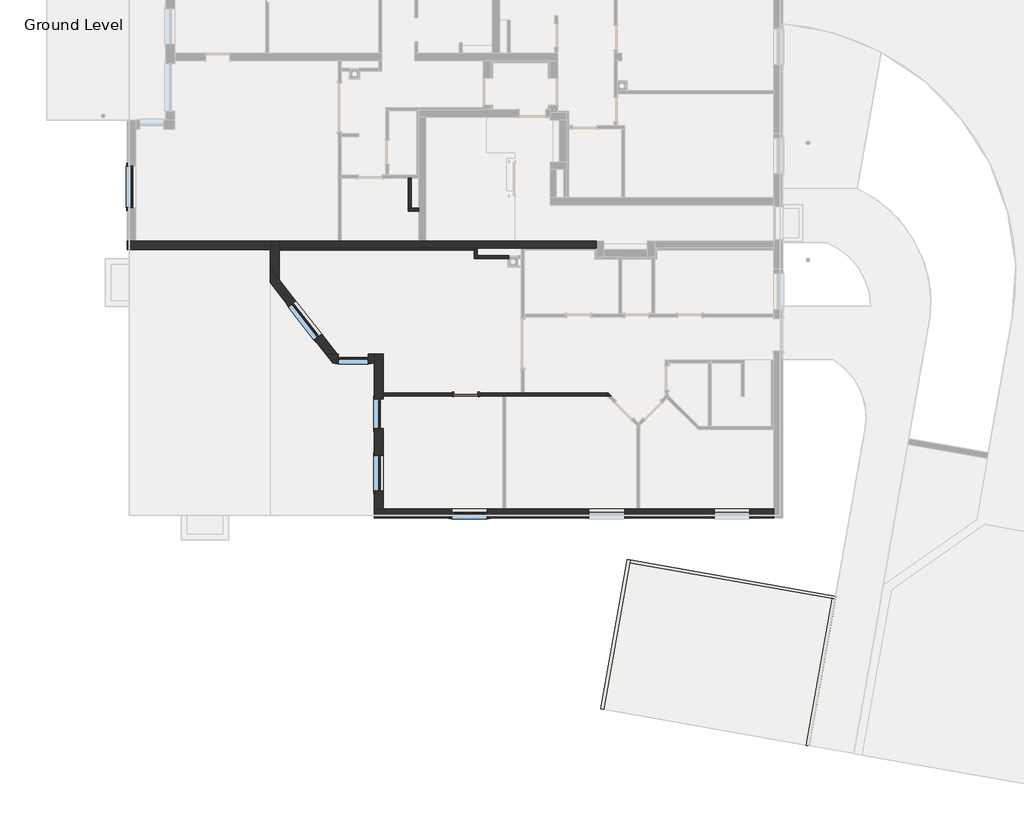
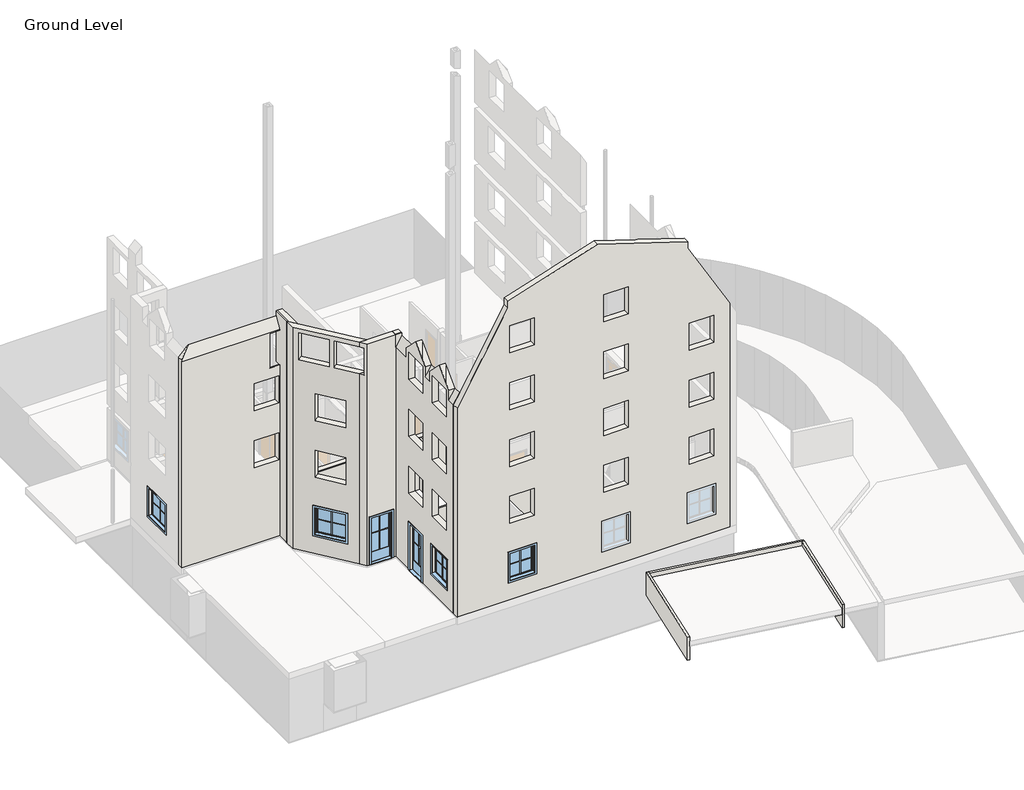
# One storey, part 1 of 6: 16 walls, 6 windows, 1 door.
"""IFC4 building model written with IfcOpenShell, lengths in millimetres."""

from ifc_helpers import new_model, si_unit, frame, origin, origin_with_axes, place, context, project, spatial, polyline, outline, extrude, faceted_brep, transform, mapped, element, save
from components import standard_door_sd_800x2000_80f4ff25, standard_window_with_mullions_d3525f46, standard_window_with_mullions_80486b60, window_2_30278724

model = new_model("IFC4")

# Units and contexts
model_context = context("Model", 3, world=origin())
ifc_project = project(units=[si_unit("LENGTHUNIT", "METRE", prefix="MILLI")], contexts=[model_context])

# Site, building, storey
site = spatial("IfcSite", under=ifc_project)
building = spatial("IfcBuilding", under=site)
storey = spatial("IfcBuildingStorey", under=building, Name="Ground Level", Elevation=0.0)

# Door
placement = place(None, origin())
standard_door_sd_800x2000_shape = standard_door_sd_800x2000_80f4ff25(model_context)
element("IfcDoor", 1, ObjectType="Standard Door : SD 800x2000", at=placement, inside=storey, context=model_context, shape_type="MappedRepresentation", body=[
    mapped(standard_door_sd_800x2000_shape, transform((-1270.9247504, -6982.3709459, 0.0), x_axis=(-1.0, 0.0, 0.0), y_axis=(0.0, -1.0, 0.0), z_axis=(0.0, 0.0, 1.0))),
])

# Walls
element("IfcWall", 2, ObjectType="Exterior - 250+50mm", at=placement, inside=storey, context=model_context, shape_type="Brep", body=[
    faceted_brep([(-4337.1962165, -10832.3709459, 0.0), (-4037.1962165, -10832.3709459, 0.0), (-37.1962165, -10832.3709459, 0.0), (62.8037835, -10832.3709459, 0.0), (4462.8037835, -10832.3709459, 0.0), (4562.8037835, -10832.3709459, 0.0), (9062.8037835, -10832.3709459, 0.0), (9062.8037835, -11132.3709459, 0.0), (-4337.1962165, -11132.3709459, 0.0), (-4337.1962165, -10832.3709459, 10831.9372055), (-4037.1962165, -10832.3709459, 11351.5524478), (-3598.9496412, -10832.3709459, 12110.6177824), (-3398.9496412, -10832.3709459, 12457.027944), (-1841.5846805, -10832.3709459, 15154.4631818), (-1841.5846805, -10832.3709459, 15495.936781), (412.8037835, -10832.3709459, 16228.431996), (512.8037835, -10832.3709459, 16260.9239656), (2571.9978058, -10832.3709459, 16929.9966618), (4612.8037835, -10832.3709459, 16266.8986035), (4712.8037835, -10832.3709459, 16234.4066339), (6985.5802922, -10832.3709459, 15495.936781), (6985.5802922, -10832.3709459, 15160.2921908), (8557.3155772, -10832.3709459, 12437.9668213), (8757.3155772, -10832.3709459, 12091.5566597), (9062.8037835, -10832.3709459, 11562.4355653), (9062.8037835, -10832.3709459, 8850.0), (4412.8037835, -10832.3709459, 8850.0), (4312.8037835, -10832.3709459, 8850.0), (163.5618728, -10832.3709459, 8850.0), (63.5618728, -10832.3709459, 8850.0), (-4037.1962165, -10832.3709459, 8850.0), (-4287.1962165, -10832.3709459, 8850.0), (-4287.1962165, -10832.3709459, 8530.0), (-4037.1962165, -10832.3709459, 8530.0), (1421.3824272, -10832.3709459, 8530.0), (1521.3824272, -10832.3709459, 8530.0), (4703.039213, -10832.3709459, 8530.0), (4803.039213, -10832.3709459, 8530.0), (9062.8037835, -10832.3709459, 8530.0), (9062.8037835, -10832.3709459, 5900.0), (4803.039213, -10832.3709459, 5900.0), (4703.039213, -10832.3709459, 5900.0), (1521.3824272, -10832.3709459, 5900.0), (1421.3824272, -10832.3709459, 5900.0), (-4037.1962165, -10832.3709459, 5900.0), (-4287.1962165, -10832.3709459, 5900.0), (-4287.1962165, -10832.3709459, 5580.0), (-4037.1962165, -10832.3709459, 5580.0), (1421.3824272, -10832.3709459, 5580.0), (1521.3824272, -10832.3709459, 5580.0), (4703.039213, -10832.3709459, 5580.0), (4803.039213, -10832.3709459, 5580.0), (9062.8037835, -10832.3709459, 5580.0), (9062.8037835, -10832.3709459, 2950.0), (4803.039213, -10832.3709459, 2950.0), (4703.039213, -10832.3709459, 2950.0), (1521.3824272, -10832.3709459, 2950.0), (1421.3824272, -10832.3709459, 2950.0), (-4037.1962165, -10832.3709459, 2950.0), (-4287.1962165, -10832.3709459, 2950.0), (-4287.1962165, -10832.3709459, 2630.0), (-4037.1962165, -10832.3709459, 2630.0), (-37.1962165, -10832.3709459, 2630.0), (62.8037835, -10832.3709459, 2630.0), (4462.8037835, -10832.3709459, 2630.0), (4562.8037835, -10832.3709459, 2630.0), (9062.8037835, -10832.3709459, 2630.0), (4053.0392115, -10832.3709459, 12800.0), (4053.0392115, -10832.3709459, 14200.0), (2853.0392115, -10832.3709459, 14200.0), (2853.0392115, -10832.3709459, 12800.0), (-544.1249228, -10832.3709459, 12800.0), (-544.1249228, -10832.3709459, 14200.0), (-1744.1249228, -10832.3709459, 14200.0), (-1744.1249228, -10832.3709459, 12800.0), (8257.145058, -10832.3709459, 9850.0), (8257.145058, -10832.3709459, 11250.0), (7057.145058, -10832.3709459, 11250.0), (7057.145058, -10832.3709459, 9850.0), (4053.0392115, -10832.3709459, 9850.0), (4053.0392115, -10832.3709459, 11250.0), (2853.0392115, -10832.3709459, 11250.0), (2853.0392115, -10832.3709459, 9850.0), (-544.1249228, -10832.3709459, 9850.0), (-544.1249228, -10832.3709459, 11250.0), (-1744.1249228, -10832.3709459, 11250.0), (-1744.1249228, -10832.3709459, 9850.0), (8257.145058, -10832.3709459, 6900.0), (8257.145058, -10832.3709459, 8300.0), (7057.145058, -10832.3709459, 8300.0), (7057.145058, -10832.3709459, 6900.0), (4053.0392115, -10832.3709459, 6900.0), (4053.0392115, -10832.3709459, 8300.0), (2853.0392115, -10832.3709459, 8300.0), (2853.0392115, -10832.3709459, 6900.0), (-544.1249228, -10832.3709459, 6900.0), (-544.1249228, -10832.3709459, 8300.0), (-1744.1249228, -10832.3709459, 8300.0), (-1744.1249228, -10832.3709459, 6900.0), (8257.145058, -10832.3709459, 3950.0), (8257.145058, -10832.3709459, 5350.0), (7057.145058, -10832.3709459, 5350.0), (7057.145058, -10832.3709459, 3950.0), (4053.0392115, -10832.3709459, 3950.0), (4053.0392115, -10832.3709459, 5350.0), (2853.0392115, -10832.3709459, 5350.0), (2853.0392115, -10832.3709459, 3950.0), (-544.1249228, -10832.3709459, 3950.0), (-544.1249228, -10832.3709459, 5350.0), (-1744.1249228, -10832.3709459, 5350.0), (-1744.1249228, -10832.3709459, 3950.0), (8257.145058, -10832.3709459, 1000.0), (8257.145058, -10832.3709459, 2400.0), (7057.145058, -10832.3709459, 2400.0), (7057.145058, -10832.3709459, 1000.0), (4053.0392115, -10832.3709459, 1000.0), (4053.0392115, -10832.3709459, 2400.0), (2853.0392115, -10832.3709459, 2400.0), (2853.0392115, -10832.3709459, 1000.0), (-544.1249228, -10832.3709459, 1000.0), (-544.1249228, -10832.3709459, 2400.0), (-1744.1249228, -10832.3709459, 2400.0), (-1744.1249228, -10832.3709459, 1000.0), (9062.8037835, -11132.3709459, 11562.4355653), (6985.5802922, -11132.3709459, 15160.2921908), (6985.5802922, -11132.3709459, 15495.936781), (2571.9978058, -11132.3709459, 16929.9966618), (-1841.5846805, -11132.3709459, 15495.936781), (-1841.5846805, -11132.3709459, 15154.4631818), (-4337.1962165, -11132.3709459, 10831.9372055), (4053.0392115, -11132.3709459, 14200.0), (4053.0392115, -11132.3709459, 12800.0), (2853.0392115, -11132.3709459, 12800.0), (2853.0392115, -11132.3709459, 14200.0), (-544.1249228, -11132.3709459, 14200.0), (-544.1249228, -11132.3709459, 12800.0), (-1744.1249228, -11132.3709459, 12800.0), (-1744.1249228, -11132.3709459, 14200.0), (8257.145058, -11132.3709459, 11250.0), (8257.145058, -11132.3709459, 9850.0), (7057.145058, -11132.3709459, 9850.0), (7057.145058, -11132.3709459, 11250.0), (4053.0392115, -11132.3709459, 11250.0), (4053.0392115, -11132.3709459, 9850.0), (2853.0392115, -11132.3709459, 9850.0), (2853.0392115, -11132.3709459, 11250.0), (-544.1249228, -11132.3709459, 11250.0), (-544.1249228, -11132.3709459, 9850.0), (-1744.1249228, -11132.3709459, 9850.0), (-1744.1249228, -11132.3709459, 11250.0), (8257.145058, -11132.3709459, 8300.0), (8257.145058, -11132.3709459, 6900.0), (7057.145058, -11132.3709459, 6900.0), (7057.145058, -11132.3709459, 8300.0), (4053.0392115, -11132.3709459, 8300.0), (4053.0392115, -11132.3709459, 6900.0), (2853.0392115, -11132.3709459, 6900.0), (2853.0392115, -11132.3709459, 8300.0), (-544.1249228, -11132.3709459, 8300.0), (-544.1249228, -11132.3709459, 6900.0), (-1744.1249228, -11132.3709459, 6900.0), (-1744.1249228, -11132.3709459, 8300.0), (8257.145058, -11132.3709459, 5350.0), (8257.145058, -11132.3709459, 3950.0), (7057.145058, -11132.3709459, 3950.0), (7057.145058, -11132.3709459, 5350.0), (4053.0392115, -11132.3709459, 5350.0), (4053.0392115, -11132.3709459, 3950.0), (2853.0392115, -11132.3709459, 3950.0), (2853.0392115, -11132.3709459, 5350.0), (-544.1249228, -11132.3709459, 5350.0), (-544.1249228, -11132.3709459, 3950.0), (-1744.1249228, -11132.3709459, 3950.0), (-1744.1249228, -11132.3709459, 5350.0), (8257.145058, -11132.3709459, 2400.0), (8257.145058, -11132.3709459, 1000.0), (7057.145058, -11132.3709459, 1000.0), (7057.145058, -11132.3709459, 2400.0), (4053.0392115, -11132.3709459, 2400.0), (4053.0392115, -11132.3709459, 1000.0), (2853.0392115, -11132.3709459, 1000.0), (2853.0392115, -11132.3709459, 2400.0), (-544.1249228, -11132.3709459, 2400.0), (-544.1249228, -11132.3709459, 1000.0), (-1744.1249228, -11132.3709459, 1000.0), (-1744.1249228, -11132.3709459, 2400.0), (9062.8037835, -11082.3709459, 2630.0), (9062.8037835, -11082.3709459, 2950.0), (9062.8037835, -11082.3709459, 5580.0), (9062.8037835, -11082.3709459, 5900.0), (9062.8037835, -11082.3709459, 8530.0), (9062.8037835, -11082.3709459, 8850.0), (-4287.1962165, -11082.3709459, 2630.0), (-4287.1962165, -11082.3709459, 2950.0), (-4287.1962165, -11082.3709459, 5580.0), (-4287.1962165, -11082.3709459, 5900.0), (-4287.1962165, -11082.3709459, 8530.0), (-4287.1962165, -11082.3709459, 8850.0)], [[[0, 1, 2, 3, 4, 5, 6, 7, 8]], [[6, 5, 4, 3, 2, 1, 0, 9, 10, 11, 12, 13, 14, 15, 16, 17, 18, 19, 20, 21, 22, 23, 24, 25, 26, 27, 28, 29, 30, 31, 32, 33, 34, 35, 36, 37, 38, 39, 40, 41, 42, 43, 44, 45, 46, 47, 48, 49, 50, 51, 52, 53, 54, 55, 56, 57, 58, 59, 60, 61, 62, 63, 64, 65, 66], [67, 68, 69, 70], [71, 72, 73, 74], [75, 76, 77, 78], [79, 80, 81, 82], [83, 84, 85, 86], [87, 88, 89, 90], [91, 92, 93, 94], [95, 96, 97, 98], [99, 100, 101, 102], [103, 104, 105, 106], [107, 108, 109, 110], [111, 112, 113, 114], [115, 116, 117, 118], [119, 120, 121, 122]], [[8, 7, 123, 124, 125, 126, 127, 128, 129], [130, 131, 132, 133], [134, 135, 136, 137], [138, 139, 140, 141], [142, 143, 144, 145], [146, 147, 148, 149], [150, 151, 152, 153], [154, 155, 156, 157], [158, 159, 160, 161], [162, 163, 164, 165], [166, 167, 168, 169], [170, 171, 172, 173], [174, 175, 176, 177], [178, 179, 180, 181], [182, 183, 184, 185]], [[123, 7, 6, 66, 186, 187, 53, 52, 188, 189, 39, 38, 190, 191, 25, 24]], [[9, 0, 8, 129]], [[128, 127, 14, 13]], [[21, 20, 125, 124]], [[13, 12, 11, 10, 9, 129, 128]], [[24, 23, 22, 21, 124, 123]], [[125, 20, 19, 18, 17, 126]], [[14, 127, 126, 17, 16, 15]], [[68, 67, 131, 130]], [[69, 68, 130, 133]], [[70, 69, 133, 132]], [[67, 70, 132, 131]], [[72, 71, 135, 134]], [[73, 72, 134, 137]], [[74, 73, 137, 136]], [[71, 74, 136, 135]], [[76, 75, 139, 138]], [[77, 76, 138, 141]], [[78, 77, 141, 140]], [[75, 78, 140, 139]], [[80, 79, 143, 142]], [[81, 80, 142, 145]], [[82, 81, 145, 144]], [[79, 82, 144, 143]], [[84, 83, 147, 146]], [[85, 84, 146, 149]], [[86, 85, 149, 148]], [[83, 86, 148, 147]], [[88, 87, 151, 150]], [[89, 88, 150, 153]], [[90, 89, 153, 152]], [[87, 90, 152, 151]], [[92, 91, 155, 154]], [[93, 92, 154, 157]], [[94, 93, 157, 156]], [[91, 94, 156, 155]], [[96, 95, 159, 158]], [[97, 96, 158, 161]], [[98, 97, 161, 160]], [[95, 98, 160, 159]], [[100, 99, 163, 162]], [[101, 100, 162, 165]], [[102, 101, 165, 164]], [[99, 102, 164, 163]], [[104, 103, 167, 166]], [[105, 104, 166, 169]], [[106, 105, 169, 168]], [[103, 106, 168, 167]], [[108, 107, 171, 170]], [[109, 108, 170, 173]], [[110, 109, 173, 172]], [[107, 110, 172, 171]], [[112, 111, 175, 174]], [[113, 112, 174, 177]], [[114, 113, 177, 176]], [[111, 114, 176, 175]], [[116, 115, 179, 178]], [[117, 116, 178, 181]], [[118, 117, 181, 180]], [[115, 118, 180, 179]], [[120, 119, 183, 182]], [[121, 120, 182, 185]], [[122, 121, 185, 184]], [[119, 122, 184, 183]], [[60, 192, 186, 66, 65, 64, 63, 62, 61]], [[187, 193, 59, 58, 57, 56, 55, 54, 53]], [[192, 193, 187, 186]], [[193, 192, 60, 59]], [[46, 194, 188, 52, 51, 50, 49, 48, 47]], [[189, 195, 45, 44, 43, 42, 41, 40, 39]], [[194, 195, 189, 188]], [[195, 194, 46, 45]], [[32, 196, 190, 38, 37, 36, 35, 34, 33]], [[191, 197, 31, 30, 29, 28, 27, 26, 25]], [[196, 197, 191, 190]], [[197, 196, 32, 31]]]),
])
element("IfcWall", 3, ObjectType="Exterior - 250+50mm", at=placement, inside=storey, context=model_context, shape_type="Brep", body=[
    faceted_brep([(-4037.1962165, -10832.3709459, 0.0), (-4337.1962165, -10832.3709459, 0.0), (-4337.1962165, -8132.3709422, 0.0), (-4037.1962165, -8132.3709422, 0.0), (-4337.1962165, -5632.3709459, 0.0), (-4037.1962165, -5632.3709459, 0.0), (-4037.1962165, -6932.3709459, 0.0), (-4037.1962165, -7032.3709459, 0.0), (-4037.1962165, -7132.3709422, 0.0), (-4337.1962165, -7132.3709422, 0.0), (-4337.1962165, -5932.3709459, 0.0), (-4037.1962165, -5932.3709459, 11480.0), (-4037.1962165, -5932.3709459, 11351.5524478), (-4037.1962165, -6832.3709452, 11351.5524478), (-4037.1962165, -6833.9233929, 11351.5524478), (-4037.1962165, -7553.9233929, 12071.5524478), (-4037.1962165, -7632.3709452, 12150.0), (-4037.1962165, -7710.8184974, 12071.5524478), (-4037.1962165, -8430.8184974, 11351.5524478), (-4037.1962165, -8432.3709452, 11351.5524478), (-4037.1962165, -8832.3709452, 11351.5524478), (-4037.1962165, -8833.9233929, 11351.5524478), (-4037.1962165, -9553.9233929, 12071.5524478), (-4037.1962165, -9632.3709452, 12150.0), (-4037.1962165, -9710.8184974, 12071.5524478), (-4037.1962165, -10430.8184974, 11351.5524478), (-4037.1962165, -10432.3709452, 11351.5524478), (-4037.1962165, -10832.3709459, 11351.5524478), (-4037.1962165, -10832.3709459, 8850.0), (-4037.1962165, -6782.3709459, 8850.0), (-4037.1962165, -6682.3709459, 8850.0), (-4037.1962165, -5632.3709459, 8850.0), (-4037.1962165, -5632.3709459, 11480.0), (-4037.1962165, -5882.3709459, 11480.0), (-4037.1962165, -8232.3709452, 9850.0), (-4037.1962165, -8232.3709452, 11250.0), (-4037.1962165, -7032.3709452, 11250.0), (-4037.1962165, -7032.3709452, 9850.0), (-4037.1962165, -10232.3709452, 9850.0), (-4037.1962165, -10232.3709452, 11250.0), (-4037.1962165, -9032.3709452, 11250.0), (-4037.1962165, -9032.3709452, 9850.0), (-4037.1962165, -7132.3709422, 2400.0), (-4037.1962165, -5632.3709459, 2630.0), (-4037.1962165, -6932.3709459, 2630.0), (-4037.1962165, -7032.3709459, 2630.0), (-4037.1962165, -10832.3709459, 2630.0), (-4037.1962165, -8132.3709422, 2400.0), (-4037.1962165, -10232.3709452, 1000.0), (-4037.1962165, -10232.3709452, 2400.0), (-4037.1962165, -9032.3709452, 2400.0), (-4037.1962165, -9032.3709452, 1000.0), (-4037.1962165, -10832.3709459, 2950.0), (-4037.1962165, -5732.3709459, 2950.0), (-4037.1962165, -5632.3709459, 2950.0), (-4037.1962165, -5632.3709459, 5580.0), (-4037.1962165, -5732.3709459, 5580.0), (-4037.1962165, -10832.3709459, 5580.0), (-4037.1962165, -8232.3709452, 3950.0), (-4037.1962165, -8232.3709452, 5350.0), (-4037.1962165, -7032.3709452, 5350.0), (-4037.1962165, -7032.3709452, 3950.0), (-4037.1962165, -10232.3709452, 3950.0), (-4037.1962165, -10232.3709452, 5350.0), (-4037.1962165, -9032.3709452, 5350.0), (-4037.1962165, -9032.3709452, 3950.0), (-4037.1962165, -10832.3709459, 5900.0), (-4037.1962165, -5732.3709459, 5900.0), (-4037.1962165, -5632.3709459, 5900.0), (-4037.1962165, -5632.3709459, 8530.0), (-4037.1962165, -5732.3709459, 8530.0), (-4037.1962165, -10832.3709459, 8530.0), (-4037.1962165, -8232.3709452, 6900.0), (-4037.1962165, -8232.3709452, 8300.0), (-4037.1962165, -7032.3709452, 8300.0), (-4037.1962165, -7032.3709452, 6900.0), (-4037.1962165, -10232.3709452, 6900.0), (-4037.1962165, -10232.3709452, 8300.0), (-4037.1962165, -9032.3709452, 8300.0), (-4037.1962165, -9032.3709452, 6900.0), (-4337.1962165, -10832.3709459, 10831.9372055), (-4337.1962165, -10432.3709452, 10831.9372055), (-4337.1962165, -10432.3709452, 11350.0), (-4337.1962165, -10230.4337397, 11551.9372055), (-4337.1962165, -9632.3709452, 12150.0), (-4337.1962165, -9034.3081507, 11551.9372055), (-4337.1962165, -8832.3709452, 11350.0), (-4337.1962165, -8832.3709452, 10831.9372055), (-4337.1962165, -8432.3709452, 10831.9372055), (-4337.1962165, -8432.3709452, 11350.0), (-4337.1962165, -8230.4337397, 11551.9372055), (-4337.1962165, -7632.3709452, 12150.0), (-4337.1962165, -7034.3081507, 11551.9372055), (-4337.1962165, -6832.3709452, 11350.0), (-4337.1962165, -6832.3709452, 10831.9372055), (-4337.1962165, -5932.3709459, 10831.9372055), (-4337.1962165, -5932.3709459, 11480.0), (-4337.1962165, -5882.3709459, 11480.0), (-4337.1962165, -5632.3709459, 11480.0), (-4337.1962165, -5632.3709459, 8850.0), (-4337.1962165, -5882.3709459, 8850.0), (-4337.1962165, -5882.3709459, 8530.0), (-4337.1962165, -5632.3709459, 8530.0), (-4337.1962165, -5632.3709459, 5900.0), (-4337.1962165, -5882.3709459, 5900.0), (-4337.1962165, -5882.3709459, 5580.0), (-4337.1962165, -5632.3709459, 5580.0), (-4337.1962165, -5632.3709459, 2950.0), (-4337.1962165, -5882.3709459, 2950.0), (-4337.1962165, -5882.3709459, 2630.0), (-4337.1962165, -5632.3709459, 2630.0), (-4337.1962165, -7132.3709422, 2400.0), (-4337.1962165, -8132.3709422, 2400.0), (-4337.1962165, -8232.3709452, 11250.0), (-4337.1962165, -8232.3709452, 9850.0), (-4337.1962165, -7032.3709452, 9850.0), (-4337.1962165, -7032.3709452, 11250.0), (-4337.1962165, -10232.3709452, 11250.0), (-4337.1962165, -10232.3709452, 9850.0), (-4337.1962165, -9032.3709452, 9850.0), (-4337.1962165, -9032.3709452, 11250.0), (-4337.1962165, -8232.3709452, 8300.0), (-4337.1962165, -8232.3709452, 6900.0), (-4337.1962165, -7032.3709452, 6900.0), (-4337.1962165, -7032.3709452, 8300.0), (-4337.1962165, -10232.3709452, 8300.0), (-4337.1962165, -10232.3709452, 6900.0), (-4337.1962165, -9032.3709452, 6900.0), (-4337.1962165, -9032.3709452, 8300.0), (-4337.1962165, -8232.3709452, 5350.0), (-4337.1962165, -8232.3709452, 3950.0), (-4337.1962165, -7032.3709452, 3950.0), (-4337.1962165, -7032.3709452, 5350.0), (-4337.1962165, -10232.3709452, 5350.0), (-4337.1962165, -10232.3709452, 3950.0), (-4337.1962165, -9032.3709452, 3950.0), (-4337.1962165, -9032.3709452, 5350.0), (-4337.1962165, -10232.3709452, 2400.0), (-4337.1962165, -10232.3709452, 1000.0), (-4337.1962165, -9032.3709452, 1000.0), (-4337.1962165, -9032.3709452, 2400.0), (-4287.1962165, -10832.3709459, 2630.0), (-4287.1962165, -10832.3709459, 2950.0), (-4287.1962165, -10832.3709459, 5580.0), (-4287.1962165, -10832.3709459, 5900.0), (-4287.1962165, -10832.3709459, 8530.0), (-4287.1962165, -10832.3709459, 8850.0), (-4038.0925227, -10432.3709452, 11350.0), (-4038.0925227, -8832.3709452, 11350.0), (-4038.0925227, -8432.3709452, 11350.0), (-4038.0925227, -6832.3709452, 11350.0), (-4287.1962165, -5882.3709459, 2630.0), (-4287.1962165, -5882.3709459, 2950.0), (-4287.1962165, -5882.3709459, 5580.0), (-4287.1962165, -5882.3709459, 5900.0), (-4287.1962165, -5882.3709459, 8530.0), (-4287.1962165, -5882.3709459, 8850.0)], [[[0, 1, 2, 3]], [[4, 5, 6, 7, 8, 9, 10]], [[11, 12, 13, 14, 15, 16, 17, 18, 19, 20, 21, 22, 23, 24, 25, 26, 27, 28, 29, 30, 31, 32, 33], [34, 35, 36, 37], [38, 39, 40, 41]], [[42, 8, 7, 6, 5, 43, 44, 45, 46, 0, 3, 47], [48, 49, 50, 51]], [[52, 53, 54, 55, 56, 57], [58, 59, 60, 61], [62, 63, 64, 65]], [[66, 67, 68, 69, 70, 71], [72, 73, 74, 75], [76, 77, 78, 79]], [[1, 80, 81, 82, 83, 84, 85, 86, 87, 88, 89, 90, 91, 92, 93, 94, 95, 96, 97, 98, 99, 100, 101, 102, 103, 104, 105, 106, 107, 108, 109, 110, 4, 10, 9, 111, 112, 2], [113, 114, 115, 116], [117, 118, 119, 120], [121, 122, 123, 124], [125, 126, 127, 128], [129, 130, 131, 132], [133, 134, 135, 136], [137, 138, 139, 140]], [[27, 80, 1, 0, 46, 141, 142, 52, 57, 143, 144, 66, 71, 145, 146, 28]], [[5, 4, 110, 43]], [[98, 32, 31, 99]], [[54, 107, 106, 55]], [[68, 103, 102, 69]], [[12, 11, 96, 95]], [[82, 81, 147]], [[87, 86, 148]], [[89, 88, 149]], [[94, 93, 150]], [[96, 11, 33, 97]], [[13, 12, 95, 94, 150, 14]], [[86, 85, 22, 21, 148]], [[83, 82, 147, 25, 24]], [[93, 92, 15, 14, 150]], [[90, 89, 149, 18, 17]], [[88, 87, 148, 21, 20, 19, 18, 149]], [[80, 27, 26, 25, 147, 81]], [[17, 16, 91, 90]], [[16, 15, 92, 91]], [[24, 23, 84, 83]], [[23, 22, 85, 84]], [[33, 32, 98, 97]], [[111, 9, 8, 42]], [[112, 111, 42, 47]], [[2, 112, 47, 3]], [[35, 34, 114, 113]], [[36, 35, 113, 116]], [[37, 36, 116, 115]], [[34, 37, 115, 114]], [[39, 38, 118, 117]], [[40, 39, 117, 120]], [[41, 40, 120, 119]], [[38, 41, 119, 118]], [[73, 72, 122, 121]], [[74, 73, 121, 124]], [[75, 74, 124, 123]], [[72, 75, 123, 122]], [[77, 76, 126, 125]], [[78, 77, 125, 128]], [[79, 78, 128, 127]], [[76, 79, 127, 126]], [[59, 58, 130, 129]], [[60, 59, 129, 132]], [[61, 60, 132, 131]], [[58, 61, 131, 130]], [[63, 62, 134, 133]], [[64, 63, 133, 136]], [[65, 64, 136, 135]], [[62, 65, 135, 134]], [[49, 48, 138, 137]], [[50, 49, 137, 140]], [[51, 50, 140, 139]], [[48, 51, 139, 138]], [[109, 151, 141, 46, 45, 44, 43, 110]], [[142, 152, 108, 107, 54, 53, 52]], [[151, 152, 142, 141]], [[152, 151, 109, 108]], [[105, 153, 143, 57, 56, 55, 106]], [[144, 154, 104, 103, 68, 67, 66]], [[153, 154, 144, 143]], [[154, 153, 105, 104]], [[101, 155, 145, 71, 70, 69, 102]], [[146, 156, 100, 99, 31, 30, 29, 28]], [[155, 156, 146, 145]], [[156, 155, 101, 100]]]),
])
element("IfcWall", 4, ObjectType="Exterior - 250+50mm", at=placement, inside=storey, context=model_context, shape_type="Brep", body=[
    faceted_brep([(-4337.1962165, -5632.3709459, 0.0), (-4337.1962165, -5932.3709459, 0.0), (-4550.4710748, -5932.3709459, 0.0), (-4550.4710748, -5632.3709459, 0.0), (-5737.1962165, -5932.3709459, 0.0), (-5970.5295499, -5632.3709459, 0.0), (-5590.4710748, -5632.3709459, 0.0), (-5550.4710748, -5632.3709459, 0.0), (-5550.4710748, -5932.3709459, 0.0), (-4337.1962165, -5632.3709459, 11480.0), (-5590.4710748, -5632.3709459, 11480.0), (-5970.5295499, -5632.3709459, 11480.0), (-5737.1962165, -5932.3709459, 11480.0), (-4337.1962165, -5932.3709459, 11480.0), (-4337.1962165, -5632.3709459, 8850.0), (-5907.1864707, -5632.3709459, 8850.0), (-5907.1864707, -5632.3709459, 8530.0), (-4337.1962165, -5632.3709459, 8530.0), (-4337.1962165, -5632.3709459, 5900.0), (-5907.1864707, -5632.3709459, 5900.0), (-5907.1864707, -5632.3709459, 5580.0), (-4337.1962165, -5632.3709459, 5580.0), (-4337.1962165, -5632.3709459, 2950.0), (-5907.1864707, -5632.3709459, 2950.0), (-5907.1864707, -5632.3709459, 2630.0), (-4337.1962165, -5632.3709459, 2630.0), (-4550.4710748, -5632.3709459, 2400.0), (-5550.4710748, -5632.3709459, 2400.0), (-5970.5295499, -5632.3709459, 9850.0), (-5590.4710748, -5632.3709459, 9850.0), (-5590.4710748, -5632.3709459, 11250.0), (-5970.5295499, -5632.3709459, 11250.0), (-5550.4710748, -5932.3709459, 2400.0), (-4550.4710748, -5932.3709459, 2400.0), (-4337.1962165, -5932.3709459, 10831.9372055), (-4337.1962165, -5882.3709459, 2630.0), (-4337.1962165, -5882.3709459, 2950.0), (-4337.1962165, -5882.3709459, 5580.0), (-4337.1962165, -5882.3709459, 5900.0), (-4337.1962165, -5882.3709459, 8530.0), (-4337.1962165, -5882.3709459, 8850.0), (-5827.27674, -5816.55313, 11250.0), (-5827.27674, -5816.55313, 9850.0), (-5712.7420262, -5882.3709459, 2630.0), (-5712.7420262, -5882.3709459, 2950.0), (-5712.7420262, -5882.3709459, 5580.0), (-5712.7420262, -5882.3709459, 5900.0), (-5712.7420262, -5882.3709459, 8530.0), (-5712.7420262, -5882.3709459, 8850.0)], [[[0, 1, 2, 3]], [[4, 5, 6, 7, 8]], [[9, 10, 11, 12, 13]], [[11, 10, 9, 14, 15, 16, 17, 18, 19, 20, 21, 22, 23, 24, 25, 0, 3, 26, 27, 7, 6, 5, 28, 29, 30, 31]], [[13, 12, 4, 8, 32, 33, 2, 1, 34]], [[9, 13, 34, 1, 0, 25, 35, 36, 22, 21, 37, 38, 18, 17, 39, 40, 14]], [[5, 4, 12, 11, 31, 41, 42, 28]], [[32, 8, 7, 27]], [[33, 32, 27, 26]], [[2, 33, 26, 3]], [[29, 42, 41, 30]], [[30, 41, 31]], [[42, 29, 28]], [[24, 43, 35, 25]], [[36, 44, 23, 22]], [[43, 44, 36, 35]], [[44, 43, 24, 23]], [[20, 45, 37, 21]], [[38, 46, 19, 18]], [[45, 46, 38, 37]], [[46, 45, 20, 19]], [[16, 47, 39, 17]], [[40, 48, 15, 14]], [[47, 48, 40, 39]], [[48, 47, 16, 15]]]),
])
element("IfcWall", 5, ObjectType="Exterior - 250+50mm", at=placement, inside=storey, context=model_context, shape_type="Brep", body=[
    faceted_brep([(-7837.1962165, -2743.7243352, 0.0), (-7537.1962165, -3129.4386209, 0.0), (-5590.4710748, -5632.3709459, 0.0), (-5970.5295499, -5632.3709459, 0.0), (-7837.1962165, -3232.3709459, 0.0), (-5590.4710748, -5632.3709459, 11480.0), (-7537.1962165, -3129.4386209, 11480.0), (-7837.1962165, -2743.7243352, 11480.0), (-7837.1962165, -3232.3709459, 11480.0), (-5970.5295499, -5632.3709459, 11480.0), (-5590.4710748, -5632.3709459, 11250.0), (-6449.9879338, -4527.2778416, 11250.0), (-6449.9879338, -4527.2778416, 9850.0), (-5590.4710748, -5632.3709459, 9850.0), (-5590.4710748, -5632.3709459, 8850.0), (-7537.1962165, -3129.4386209, 8850.0), (-7787.1962165, -2808.0100494, 8850.0), (-7787.1962165, -2808.0100494, 8530.0), (-7537.1962165, -3129.4386209, 8530.0), (-5590.4710748, -5632.3709459, 8530.0), (-5590.4710748, -5632.3709459, 5900.0), (-7537.1962165, -3129.4386209, 5900.0), (-7787.1962165, -2808.0100494, 5900.0), (-7787.1962165, -2808.0100494, 5580.0), (-7537.1962165, -3129.4386209, 5580.0), (-5590.4710748, -5632.3709459, 5580.0), (-5590.4710748, -5632.3709459, 2950.0), (-7537.1962165, -3129.4386209, 2950.0), (-7787.1962165, -2808.0100494, 2950.0), (-7787.1962165, -2808.0100494, 2630.0), (-7537.1962165, -3129.4386209, 2630.0), (-5590.4710748, -5632.3709459, 2630.0), (-6576.7507807, -4364.2970383, 9850.0), (-6576.7507807, -4364.2970383, 11250.0), (-7436.2676396, -3259.203934, 11250.0), (-7436.2676396, -3259.203934, 9850.0), (-6111.3619969, -4962.6540461, 6900.0), (-6111.3619969, -4962.6540461, 8300.0), (-6970.8788558, -3857.5609418, 8300.0), (-6970.8788558, -3857.5609418, 6900.0), (-6111.3619969, -4962.6540461, 3950.0), (-6111.3619969, -4962.6540461, 5350.0), (-6970.8788558, -3857.5609418, 5350.0), (-6970.8788558, -3857.5609418, 3950.0), (-6111.3619969, -4962.6540461, 1000.0), (-6111.3619969, -4962.6540461, 2400.0), (-6970.8788558, -3857.5609418, 2400.0), (-6970.8788558, -3857.5609418, 1000.0), (-5970.5295499, -5632.3709459, 9850.0), (-6686.793599, -4711.4600256, 9850.0), (-6686.793599, -4711.4600256, 11250.0), (-5970.5295499, -5632.3709459, 11250.0), (-6813.5564459, -4548.4792224, 11250.0), (-6813.5564459, -4548.4792224, 9850.0), (-7673.0733049, -3443.3861181, 9850.0), (-7673.0733049, -3443.3861181, 11250.0), (-6348.1676621, -5146.8362301, 8300.0), (-6348.1676621, -5146.8362301, 6900.0), (-7207.6845211, -4041.7431258, 6900.0), (-7207.6845211, -4041.7431258, 8300.0), (-6348.1676621, -5146.8362301, 5350.0), (-6348.1676621, -5146.8362301, 3950.0), (-7207.6845211, -4041.7431258, 3950.0), (-7207.6845211, -4041.7431258, 5350.0), (-6348.1676621, -5146.8362301, 2400.0), (-6348.1676621, -5146.8362301, 1000.0), (-7207.6845211, -4041.7431258, 1000.0), (-7207.6845211, -4041.7431258, 2400.0), (-5907.1864707, -5632.3709459, 2630.0), (-5907.1864707, -5632.3709459, 2950.0), (-5907.1864707, -5632.3709459, 5580.0), (-5907.1864707, -5632.3709459, 5900.0), (-5907.1864707, -5632.3709459, 8530.0), (-5907.1864707, -5632.3709459, 8850.0), (-7787.1962165, -3215.2155584, 2630.0), (-7787.1962165, -3215.2155584, 2950.0), (-7787.1962165, -3215.2155584, 5580.0), (-7787.1962165, -3215.2155584, 5900.0), (-7787.1962165, -3215.2155584, 8530.0), (-7787.1962165, -3215.2155584, 8850.0)], [[[0, 1, 2, 3, 4]], [[5, 6, 7, 8, 9]], [[2, 1, 0, 7, 6, 5, 10, 11, 12, 13, 14, 15, 16, 17, 18, 19, 20, 21, 22, 23, 24, 25, 26, 27, 28, 29, 30, 31], [32, 33, 34, 35], [36, 37, 38, 39], [40, 41, 42, 43], [44, 45, 46, 47]], [[4, 3, 48, 49, 50, 51, 9, 8], [52, 53, 54, 55], [56, 57, 58, 59], [60, 61, 62, 63], [64, 65, 66, 67]], [[7, 0, 4, 8]], [[5, 9, 51, 10]], [[3, 2, 31, 68, 69, 26, 25, 70, 71, 20, 19, 72, 73, 14, 13, 48]], [[50, 11, 10, 51]], [[11, 50, 49, 12]], [[12, 49, 48, 13]], [[33, 32, 53, 52]], [[34, 33, 52, 55]], [[35, 34, 55, 54]], [[32, 35, 54, 53]], [[37, 36, 57, 56]], [[38, 37, 56, 59]], [[39, 38, 59, 58]], [[36, 39, 58, 57]], [[41, 40, 61, 60]], [[42, 41, 60, 63]], [[43, 42, 63, 62]], [[40, 43, 62, 61]], [[45, 44, 65, 64]], [[46, 45, 64, 67]], [[47, 46, 67, 66]], [[44, 47, 66, 65]], [[29, 74, 68, 31, 30]], [[69, 75, 28, 27, 26]], [[74, 75, 69, 68]], [[75, 74, 29, 28]], [[23, 76, 70, 25, 24]], [[71, 77, 22, 21, 20]], [[76, 77, 71, 70]], [[77, 76, 23, 22]], [[17, 78, 72, 19, 18]], [[73, 79, 16, 15, 14]], [[78, 79, 73, 72]], [[79, 78, 17, 16]]]),
])
element("IfcWall", 6, ObjectType="Exterior - 250+50mm", at=placement, inside=storey, context=model_context, shape_type="Brep", body=[
    faceted_brep([(-7537.1962165, -1832.3709459, 0.0), (-7537.1962165, -2082.3709459, 0.0), (-7537.1962165, -2147.3709459, 0.0), (-7537.1962165, -3129.4386209, 0.0), (-7837.1962165, -2743.7243352, 0.0), (-7837.1962165, -2132.3709459, 0.0), (-7837.1962165, -1832.3709459, 0.0), (-7537.1962165, -1832.3709459, 2630.0), (-7537.1962165, -2082.3709459, 2630.0), (-7537.1962165, -2147.3709459, 2630.0), (-7537.1962165, -3129.4386209, 2630.0), (-7537.1962165, -1832.3709459, 11480.0), (-7537.1962165, -2082.3709459, 11480.0), (-7537.1962165, -2147.3709459, 11480.0), (-7537.1962165, -3129.4386209, 11480.0), (-7537.1962165, -3129.4386209, 8850.0), (-7537.1962165, -2147.3709459, 8850.0), (-7537.1962165, -2082.3709459, 8850.0), (-7537.1962165, -1832.3709459, 8850.0), (-7537.1962165, -3129.4386209, 2950.0), (-7537.1962165, -2147.3709459, 2950.0), (-7537.1962165, -2082.3709459, 2950.0), (-7537.1962165, -1832.3709459, 2950.0), (-7537.1962165, -1832.3709459, 5580.0), (-7537.1962165, -2082.3709459, 5580.0), (-7537.1962165, -2147.3709459, 5580.0), (-7537.1962165, -3129.4386209, 5580.0), (-7537.1962165, -3129.4386209, 5900.0), (-7537.1962165, -2147.3709459, 5900.0), (-7537.1962165, -2082.3709459, 5900.0), (-7537.1962165, -1832.3709459, 5900.0), (-7537.1962165, -1832.3709459, 8530.0), (-7537.1962165, -2082.3709459, 8530.0), (-7537.1962165, -2147.3709459, 8530.0), (-7537.1962165, -3129.4386209, 8530.0), (-7837.1962165, -2743.7243352, 11480.0), (-7837.1962165, -1832.3709459, 11480.0), (-7837.1962165, -1832.3709459, 11223.7295446), (-7837.1962165, -1832.3709459, 10650.0), (-7837.1962165, -1832.3709459, 8850.0), (-7837.1962165, -2082.3709459, 8850.0), (-7837.1962165, -2082.3709459, 8530.0), (-7837.1962165, -1832.3709459, 8530.0), (-7837.1962165, -1832.3709459, 5900.0), (-7837.1962165, -2082.3709459, 5900.0), (-7837.1962165, -2082.3709459, 5580.0), (-7837.1962165, -1832.3709459, 5580.0), (-7837.1962165, -1832.3709459, 2950.0), (-7837.1962165, -2082.3709459, 2950.0), (-7837.1962165, -2082.3709459, 2630.0), (-7837.1962165, -1832.3709459, 2630.0), (-7787.1962165, -2808.0100494, 2630.0), (-7787.1962165, -2808.0100494, 2950.0), (-7787.1962165, -2808.0100494, 5580.0), (-7787.1962165, -2808.0100494, 5900.0), (-7787.1962165, -2808.0100494, 8530.0), (-7787.1962165, -2808.0100494, 8850.0), (-7787.1962165, -2808.0100494, 11480.0), (-7787.1962165, -1832.3709459, 11480.0), (-7787.1962165, -2082.3709459, 2630.0), (-7787.1962165, -2082.3709459, 2950.0), (-7787.1962165, -2082.3709459, 5580.0), (-7787.1962165, -2082.3709459, 5900.0), (-7787.1962165, -2082.3709459, 8530.0), (-7787.1962165, -2082.3709459, 8850.0)], [[[0, 1, 2, 3, 4, 5, 6]], [[3, 2, 1, 0, 7, 8, 9, 10]], [[11, 12, 13, 14, 15, 16, 17, 18]], [[19, 20, 21, 22, 23, 24, 25, 26]], [[27, 28, 29, 30, 31, 32, 33, 34]], [[6, 5, 4, 35, 36, 37, 38, 39, 40, 41, 42, 43, 44, 45, 46, 47, 48, 49, 50]], [[35, 4, 3, 10, 51, 52, 19, 26, 53, 54, 27, 34, 55, 56, 15, 14, 57]], [[0, 6, 50, 7]], [[58, 11, 18, 39, 38, 37, 36]], [[22, 47, 46, 23]], [[30, 43, 42, 31]], [[36, 35, 57, 58]], [[14, 13, 12, 11, 58, 57]], [[49, 59, 51, 10, 9, 8, 7, 50]], [[52, 60, 48, 47, 22, 21, 20, 19]], [[59, 60, 52, 51]], [[60, 59, 49, 48]], [[45, 61, 53, 26, 25, 24, 23, 46]], [[54, 62, 44, 43, 30, 29, 28, 27]], [[61, 62, 54, 53]], [[62, 61, 45, 44]], [[41, 63, 55, 34, 33, 32, 31, 42]], [[56, 64, 40, 39, 18, 17, 16, 15]], [[63, 64, 56, 55]], [[64, 63, 41, 40]]]),
])
element("IfcWall", 7, ObjectType="Exterior - 250+50mm", at=placement, inside=storey, context=model_context, shape_type="Brep", body=[
    faceted_brep([(-12637.1962165, -1832.3709459, 0.0), (-12337.1962165, -1832.3709459, 0.0), (-7837.1962165, -1832.3709459, 0.0), (-7837.1962165, -2132.3709459, 0.0), (-12637.1962165, -2132.3709459, 0.0), (-12637.1962165, -1832.3709459, 10750.0), (-12337.1962165, -1832.3709459, 11050.0), (-12163.4666719, -1832.3709459, 11223.7295446), (-7837.1962165, -1832.3709459, 11223.7295446), (-7837.1962165, -1832.3709459, 10650.0), (-8337.1962165, -1832.3709459, 10650.0), (-8337.1962165, -1832.3709459, 8850.0), (-12587.1962165, -1832.3709459, 8850.0), (-12587.1962165, -1832.3709459, 8530.0), (-7837.1962165, -1832.3709459, 8530.0), (-7837.1962165, -1832.3709459, 5900.0), (-12587.1962165, -1832.3709459, 5900.0), (-12587.1962165, -1832.3709459, 5580.0), (-9337.1962165, -1832.3709459, 5580.0), (-9237.1962165, -1832.3709459, 5580.0), (-7837.1962165, -1832.3709459, 5580.0), (-7837.1962165, -1832.3709459, 2950.0), (-9237.1962165, -1832.3709459, 2950.0), (-9337.1962165, -1832.3709459, 2950.0), (-12587.1962165, -1832.3709459, 2950.0), (-12587.1962165, -1832.3709459, 2630.0), (-7837.1962165, -1832.3709459, 2630.0), (-7887.196218, -1832.3709459, 6900.0), (-7887.196218, -1832.3709459, 8300.0), (-9087.196218, -1832.3709459, 8300.0), (-9087.196218, -1832.3709459, 6900.0), (-7887.196218, -1832.3709459, 3950.0), (-7887.196218, -1832.3709459, 5350.0), (-9087.196218, -1832.3709459, 5350.0), (-9087.196218, -1832.3709459, 3950.0), (-7837.1962165, -2132.3709459, 8850.0), (-8337.1962165, -2132.3709459, 8850.0), (-8337.1962165, -2132.3709459, 10650.0), (-7837.1962165, -2132.3709459, 10650.0), (-7837.1962165, -2132.3709459, 10704.1143023), (-12637.1962165, -2132.3709459, 10704.1143023), (-7887.196218, -2132.3709459, 8300.0), (-7887.196218, -2132.3709459, 6900.0), (-9087.196218, -2132.3709459, 6900.0), (-9087.196218, -2132.3709459, 8300.0), (-7887.196218, -2132.3709459, 5350.0), (-7887.196218, -2132.3709459, 3950.0), (-9087.196218, -2132.3709459, 3950.0), (-9087.196218, -2132.3709459, 5350.0), (-12637.1962165, -2105.878826, 10750.0), (-7837.1962165, -2082.3709459, 2630.0), (-7837.1962165, -2082.3709459, 2950.0), (-7837.1962165, -2082.3709459, 5580.0), (-7837.1962165, -2082.3709459, 5900.0), (-7837.1962165, -2082.3709459, 8530.0), (-7837.1962165, -2082.3709459, 8850.0), (-8337.1962165, -2082.3709459, 8850.0), (-12587.1962165, -2082.3709459, 2630.0), (-12587.1962165, -2082.3709459, 2950.0), (-12587.1962165, -2082.3709459, 5580.0), (-12587.1962165, -2082.3709459, 5900.0), (-12587.1962165, -2082.3709459, 8530.0), (-12587.1962165, -2082.3709459, 8850.0)], [[[0, 1, 2, 3, 4]], [[2, 1, 0, 5, 6, 7, 8, 9, 10, 11, 12, 13, 14, 15, 16, 17, 18, 19, 20, 21, 22, 23, 24, 25, 26], [27, 28, 29, 30], [31, 32, 33, 34]], [[4, 3, 35, 36, 37, 38, 39, 40], [41, 42, 43, 44], [45, 46, 47, 48]], [[5, 0, 4, 40, 49]], [[8, 39, 38, 9]], [[3, 2, 26, 50, 51, 21, 20, 52, 53, 15, 14, 54, 55, 35]], [[40, 39, 8, 7, 49]], [[7, 6, 5, 49]], [[37, 10, 9, 38]], [[10, 37, 36, 56, 11]], [[36, 35, 55, 56]], [[28, 27, 42, 41]], [[29, 28, 41, 44]], [[30, 29, 44, 43]], [[27, 30, 43, 42]], [[32, 31, 46, 45]], [[33, 32, 45, 48]], [[34, 33, 48, 47]], [[31, 34, 47, 46]], [[25, 57, 50, 26]], [[51, 58, 24, 23, 22, 21]], [[57, 58, 51, 50]], [[58, 57, 25, 24]], [[17, 59, 52, 20, 19, 18]], [[53, 60, 16, 15]], [[59, 60, 53, 52]], [[60, 59, 17, 16]], [[13, 61, 54, 14]], [[56, 62, 12, 11]], [[61, 62, 56, 55, 54]], [[62, 61, 13, 12]]]),
])
element("IfcWall", 8, ObjectType="Exterior - STB 100mm", at=placement, inside=storey, context=model_context, shape_type="Brep", body=[
    faceted_brep([(3354.3801331, -17565.73644, -1000.0), (4222.6210214, -12641.6976749, -1000.0), (4239.9858392, -12543.2168996, -1000.0), (4239.9858392, -12543.2168996, 200.0), (4222.6210214, -12641.6976749, 200.0), (3354.3801331, -17565.73644, 200.0), (3255.8993578, -17548.3716222, -1000.0), (3255.8993578, -17548.3716222, 200.0), (4141.5050639, -12525.8520818, 200.0), (4141.5050639, -12525.8520818, -1000.0)], [[[0, 1, 2, 3, 4, 5]], [[6, 7, 8, 9]], [[2, 1, 0, 6, 9]], [[5, 4, 3, 8, 7]], [[0, 5, 7, 6]], [[3, 2, 9, 8]]]),
])
element("IfcWall", 9, ObjectType="Exterior - STB 100mm", at=placement, inside=storey, context=model_context, shape_type="Brep", body=[
    faceted_brep([(4222.6210214, -12641.6976749, -1000.0), (11017.7185291, -13839.856702, -1000.0), (11116.1993044, -13857.2215198, -1000.0), (11116.1993044, -13857.2215198, 200.0), (11017.7185291, -13839.856702, 200.0), (4222.6210214, -12641.6976749, 200.0), (4239.9858392, -12543.2168996, -1000.0), (4239.9858392, -12543.2168996, 200.0), (11133.5626024, -13758.7404765, 200.0), (11133.5626024, -13758.7404765, -1000.0)], [[[0, 1, 2, 3, 4, 5]], [[6, 7, 8, 9]], [[2, 1, 0, 6, 9]], [[5, 4, 3, 8, 7]], [[3, 2, 9, 8]], [[0, 5, 7, 6]]]),
])
element("IfcWall", 10, ObjectType="Exterior - STB 100mm", at=placement, inside=storey, context=model_context, shape_type="SweptSolid", body=[
    extrude(outline(polyline([(10149.5536288, -18763.9088659), (11017.7185291, -13839.856702), (11116.1993044, -13857.2215198), (10248.0346721, -18781.2721639), (10149.5536288, -18763.9088659)])), frame((0.0, 0.0, -1000.0), z_axis=(0.0, 0.0, 1.0), x_axis=(1.0, 0.0, 0.0)), (0.0, 0.0, 1.0), 1200.0),
])
element("IfcWall", 11, ObjectType="Interior - 100mm", at=placement, inside=storey, context=model_context, shape_type="SweptSolid", body=[
    extrude(outline(polyline([(-3207.1962165, -732.3709459), (-3207.1962165, 267.6290541), (-3107.1962165, 267.6290541), (-3107.1962165, -732.3709459), (-3207.1962165, -732.3709459)])), origin_with_axes(), (0.0, 0.0, 1.0), 2630.0),
])
element("IfcWall", 12, ObjectType="Interior - 100mm", at=placement, inside=storey, context=model_context, shape_type="Brep", body=[
    faceted_brep([(-3207.1962165, -832.3709459, 0.0), (-2857.1962165, -832.3709459, 0.0), (-2857.1962165, -832.3709459, 2630.0), (-3207.1962165, -832.3709459, 2630.0), (-3207.1962165, -732.3709459, 0.0), (-3207.1962165, -732.3709459, 2630.0), (-3107.1962165, -732.3709459, 2630.0), (-2857.1962165, -732.3709459, 2630.0), (-2857.1962165, -732.3709459, 0.0), (-3107.1962165, -732.3709459, 0.0)], [[[0, 1, 2, 3]], [[4, 5, 6, 7, 8, 9]], [[1, 0, 4, 9, 8]], [[0, 3, 5, 4]], [[2, 1, 8, 7]], [[3, 2, 7, 6, 5]]]),
])
element("IfcWall", 13, ObjectType="Interior - 100mm", at=placement, inside=storey, context=model_context, shape_type="Brep", body=[
    faceted_brep([(-986.4381272, -2082.3709459, 0.0), (-986.4381272, -2147.3709459, 0.0), (-986.4381272, -2432.3709459, 0.0), (-986.4381272, -2432.3709459, 2630.0), (-986.4381272, -2147.3709459, 2630.0), (-986.4381272, -2082.3709459, 2630.0), (-886.4381272, -2082.3709459, 0.0), (-886.4381272, -2082.3709459, 2630.0), (-886.4381272, -2332.3709459, 2630.0), (-886.4381272, -2432.3709459, 2630.0), (-886.4381272, -2432.3709459, 0.0), (-886.4381272, -2332.3709459, 0.0)], [[[0, 1, 2, 3, 4, 5]], [[6, 7, 8, 9, 10, 11]], [[2, 1, 0, 6, 11, 10]], [[3, 2, 10, 9]], [[0, 5, 7, 6]], [[5, 4, 3, 9, 8, 7]]]),
])
element("IfcWall", 14, ObjectType="Interior - 100mm", at=placement, inside=storey, context=model_context, shape_type="Brep", body=[
    faceted_brep([(-886.4381272, -2432.3709459, 0.0), (133.5618728, -2432.3709459, 0.0), (163.5618728, -2432.3709459, 0.0), (163.5618728, -2432.3709459, 2630.0), (-886.4381272, -2432.3709459, 2630.0), (-886.4381272, -2332.3709459, 0.0), (-886.4381272, -2332.3709459, 2630.0), (-86.4381272, -2332.3709459, 2630.0), (163.5618728, -2332.3709459, 2630.0), (163.5618728, -2332.3709459, 0.0)], [[[0, 1, 2, 3, 4]], [[5, 6, 7, 8, 9]], [[2, 1, 0, 5, 9]], [[3, 2, 9, 8]], [[0, 4, 6, 5]], [[4, 3, 8, 7, 6]]]),
])
element("IfcWall", 15, ObjectType="Interior - 100mm", at=placement, inside=storey, context=model_context, shape_type="Brep", body=[
    faceted_brep([(-4037.1962165, -6932.3709459, 0.0), (-1670.9247504, -6932.3709459, 0.0), (-1670.9247504, -7032.3709459, 0.0), (-4037.1962165, -7032.3709459, 0.0), (-870.9247504, -6932.3709459, 0.0), (592.8037835, -6932.3709459, 0.0), (692.8037835, -6932.3709459, 0.0), (3504.2251397, -6932.3709459, 0.0), (3604.2251397, -7032.3709459, 0.0), (3462.8037835, -7032.3709459, 0.0), (62.8037835, -7032.3709459, 0.0), (-37.1962165, -7032.3709459, 0.0), (-870.9247504, -7032.3709459, 0.0), (-1670.9247504, -7032.3709459, 2000.0), (-870.9247504, -7032.3709459, 2000.0), (3604.2251397, -7032.3709459, 2630.0), (3462.8037835, -7032.3709459, 2630.0), (62.8037835, -7032.3709459, 2630.0), (-37.1962165, -7032.3709459, 2630.0), (-4037.1962165, -7032.3709459, 2630.0), (-1670.9247504, -6932.3709459, 2000.0), (-4037.1962165, -6932.3709459, 2630.0), (592.8037835, -6932.3709459, 2630.0), (692.8037835, -6932.3709459, 2630.0), (3504.2251397, -6932.3709459, 2630.0), (-870.9247504, -6932.3709459, 2000.0)], [[[0, 1, 2, 3]], [[4, 5, 6, 7, 8, 9, 10, 11, 12]], [[3, 2, 13, 14, 12, 11, 10, 9, 8, 15, 16, 17, 18, 19]], [[20, 1, 0, 21, 22, 23, 24, 7, 6, 5, 4, 25]], [[3, 19, 21, 0]], [[15, 8, 7, 24]], [[19, 18, 17, 16, 15, 24, 23, 22, 21]], [[13, 2, 1, 20]], [[14, 13, 20, 25]], [[12, 14, 25, 4]]]),
])
element("IfcWall", 16, ObjectType="Interior - 250mm", at=placement, inside=storey, context=model_context, shape_type="Brep", body=[
    faceted_brep([(-7537.1962165, -2082.3709459, 0.0), (-986.4381272, -2082.3709459, 0.0), (-886.4381272, -2082.3709459, 0.0), (592.8037835, -2082.3709459, 0.0), (692.8037835, -2082.3709459, 0.0), (3112.8037835, -2082.3709459, 0.0), (3112.8037835, -2082.3709459, 2630.0), (692.8037835, -2082.3709459, 2630.0), (592.8037835, -2082.3709459, 2630.0), (-86.4381272, -2082.3709459, 2630.0), (-886.4381272, -2082.3709459, 2630.0), (-986.4381272, -2082.3709459, 2630.0), (-7537.1962165, -2082.3709459, 2630.0), (-7537.1962165, -1832.3709459, 0.0), (-7537.1962165, -1832.3709459, 2630.0), (-5557.1962165, -1832.3709459, 2630.0), (-5457.1962165, -1832.3709459, 2630.0), (-2857.1962165, -1832.3709459, 2630.0), (-2607.1962165, -1832.3709459, 2630.0), (362.8037835, -1832.3709459, 2630.0), (3112.8037835, -1832.3709459, 2630.0), (3112.8037835, -1832.3709459, 0.0), (-2607.1962165, -1832.3709459, 0.0), (-2857.1962165, -1832.3709459, 0.0), (-5457.1962165, -1832.3709459, 0.0), (-5557.1962165, -1832.3709459, 0.0)], [[[0, 1, 2, 3, 4, 5, 6, 7, 8, 9, 10, 11, 12]], [[13, 14, 15, 16, 17, 18, 19, 20, 21, 22, 23, 24, 25]], [[5, 4, 3, 2, 1, 0, 13, 25, 24, 23, 22, 21]], [[0, 12, 14, 13]], [[6, 5, 21, 20]], [[12, 11, 10, 9, 8, 7, 6, 20, 19, 18, 17, 16, 15, 14]]]),
])
element("IfcWall", 17, ObjectType="Interior - 65mm", at=placement, inside=storey, context=model_context, shape_type="SweptSolid", body=[
    extrude(outline(polyline([(-986.4381272, -2147.3709459), (-7537.1962165, -2147.3709459), (-7537.1962165, -2082.3709459), (-986.4381272, -2082.3709459), (-986.4381272, -2147.3709459)])), origin_with_axes(), (0.0, 0.0, 1.0), 2630.0),
])

# Windows
standard_window_with_mullions_shape = standard_window_with_mullions_d3525f46(model_context)
element("IfcWindow", 18, ObjectType="Standard Window with mullions : 1400/1400", at=placement, inside=storey, context=model_context, shape_type="MappedRepresentation", body=[
    mapped(standard_window_with_mullions_shape, transform((-6659.523259, -4502.198586, 0.0), x_axis=(-0.6139406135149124, 0.7893522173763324, 0.0), y_axis=(-0.7893522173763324, -0.6139406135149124, 0.0), z_axis=(0.0, 0.0, 1.0))),
])
element("IfcWindow", 19, ObjectType="Standard Window with mullions : 1400/1400", at=placement, inside=storey, context=model_context, shape_type="MappedRepresentation", body=[
    mapped(standard_window_with_mullions_shape, transform((-12487.1962165, -20.1346317, 0.0), x_axis=(0.0, 1.0, 0.0), y_axis=(-1.0, 0.0, 0.0), z_axis=(0.0, 0.0, 1.0))),
])
standard_window_with_mullions_2_shape = standard_window_with_mullions_80486b60(model_context)
element("IfcWindow", 20, ObjectType="Standard Window with mullions : 1200/1400", at=placement, inside=storey, context=model_context, shape_type="MappedRepresentation", body=[
    mapped(standard_window_with_mullions_2_shape, transform((-1144.1249228, -10982.3709459, 0.0), x_axis=(-1.0, 0.0, 0.0), y_axis=(0.0, -1.0, 0.0), z_axis=(0.0, 0.0, 1.0))),
])
element("IfcWindow", 21, ObjectType="Standard Window with mullions : 1200/1400", at=placement, inside=storey, context=model_context, shape_type="MappedRepresentation", body=[
    mapped(standard_window_with_mullions_2_shape, transform((-4187.1962165, -9632.3709452, 0.0), x_axis=(0.0, 1.0, 0.0), y_axis=(-1.0, 0.0, 0.0), z_axis=(0.0, 0.0, 1.0))),
])
window_2_shape = window_2_30278724(model_context)
element("IfcWindow", 22, ObjectType="Window 2 : 1000/2400", at=placement, inside=storey, context=model_context, shape_type="MappedRepresentation", body=[
    mapped(window_2_shape, transform((-4187.1962165, -7632.3709422, 0.0), x_axis=(0.0, -1.0, 0.0), y_axis=(1.0, 0.0, 0.0), z_axis=(0.0, 0.0, 1.0))),
])
element("IfcWindow", 23, ObjectType="Window 2 : 1000/2400", at=placement, inside=storey, context=model_context, shape_type="MappedRepresentation", body=[
    mapped(window_2_shape, transform((-5050.4710748, -5782.3709459, 0.0), x_axis=(1.0, 0.0, 0.0), y_axis=(0.0, 1.0, 0.0), z_axis=(0.0, 0.0, 1.0))),
])

save(model, "model.ifc")
